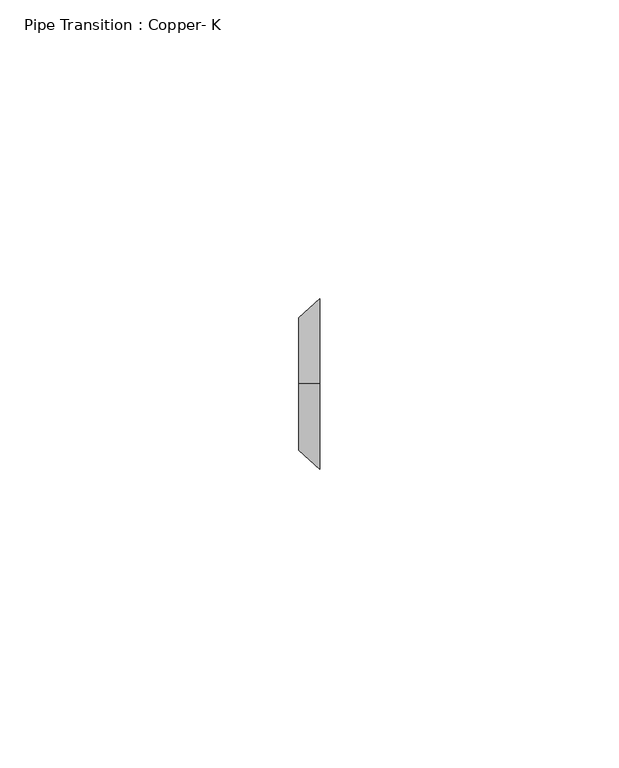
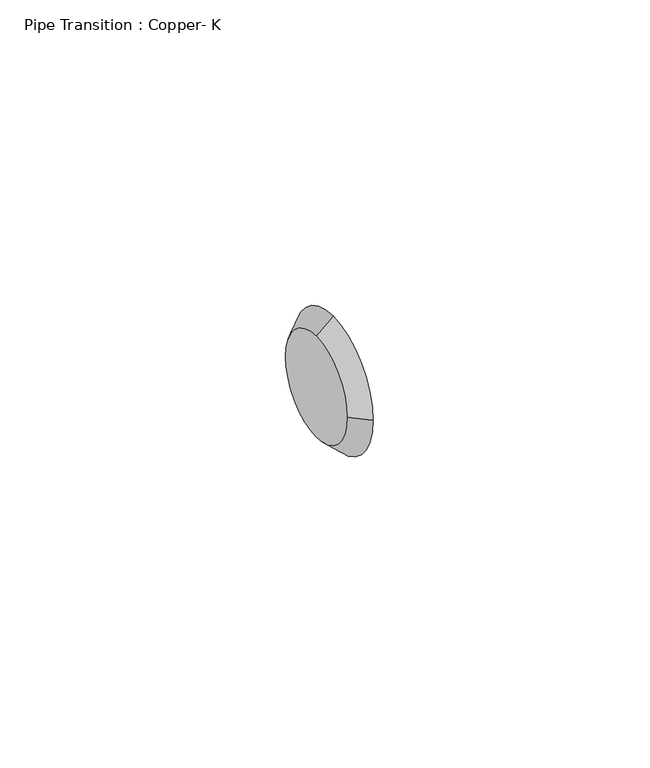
"""IFC4 building model written with IfcOpenShell, lengths in millimetres: pipe fitting geometry, Pipe Transition : Copper- K."""

import ifcopenshell
import ifcopenshell.guid

model = None  # the IFC model being written
_history = None  # IfcOwnerHistory: only IFC2X3 demands one
_inside = {}  # id of a spatial element -> (the spatial element, [elements in it])
_under = {}  # id of a project, library or spatial element -> (it, [spatial elements below it])
_declared = {}  # id of a project -> (the project, [libraries it declares])
_typed = {}  # id of a type object -> (the type object, [elements of that type])
_made_of = {}  # id of a material, layer set ... -> (it, [elements and type objects made of it])


def new_model(schema):
    """Start an empty IFC model of exactly this schema.

    Asked for "IFC4X3", IfcOpenShell would pick the latest addendum, in which some entities
    have other attributes; the version numbers below select the first issue.
    IFC2X3 requires an IfcOwnerHistory on every rooted entity: one is made here for all.
    """
    global model, _history
    if schema == "IFC4X3":
        model = ifcopenshell.file(schema_version=(4, 3, 0, 0))
    else:
        model = ifcopenshell.file(schema=schema)
    _inside.clear()
    _under.clear()
    _declared.clear()
    _typed.clear()
    _made_of.clear()
    _history = None
    if model.schema == "IFC2X3":
        org = make("IfcOrganization", Name="unknown")
        user = make(
            "IfcPersonAndOrganization",
            ThePerson=make("IfcPerson", FamilyName="unknown"),
            TheOrganization=org,
        )
        app = make(
            "IfcApplication",
            ApplicationDeveloper=org,
            Version="unknown",
            ApplicationFullName="unknown",
            ApplicationIdentifier="unknown",
        )
        _history = make(
            "IfcOwnerHistory",
            OwningUser=user,
            OwningApplication=app,
            ChangeAction="ADDED",
            CreationDate=0,
        )
    return model


def make(cls, **values):
    """One entity of the class cls with the attributes given. An attribute that is None is left unset."""
    return model.create_entity(
        cls, **{name: value for name, value in values.items() if value is not None}
    )


def rooted(cls, **values):
    """An entity with a GlobalId (a new one), such as an element, a storey or a relation."""
    return make(cls, GlobalId=ifcopenshell.guid.new(), OwnerHistory=_history, **values)


def si_unit(unit_type, name, prefix=None):
    """IfcSIUnit, for example si_unit("LENGTHUNIT", "METRE", prefix="MILLI")."""
    return make("IfcSIUnit", UnitType=unit_type, Prefix=prefix, Name=name)


def assignment(units):
    """IfcUnitAssignment: the units of a project."""
    return None if units is None else make("IfcUnitAssignment", Units=units)


def point(xyz):
    """IfcCartesianPoint."""
    return None if xyz is None else make("IfcCartesianPoint", Coordinates=xyz)


def direction(xyz):
    """IfcDirection."""
    return None if xyz is None else make("IfcDirection", DirectionRatios=xyz)


def frame(location, z_axis=None, x_axis=None):
    """IfcAxis2Placement3D, a coordinate frame: its origin and axes. An axis left out is left unset."""
    return make(
        "IfcAxis2Placement3D",
        Location=point(location),
        Axis=direction(z_axis),
        RefDirection=direction(x_axis),
    )


def origin():
    """The frame at (0, 0, 0) with its axes left unset."""
    return frame((0.0, 0.0, 0.0))


def place(relative_to, where):
    """IfcLocalPlacement: puts the frame where relative to a parent placement (None: the world)."""
    return make(
        "IfcLocalPlacement", PlacementRelTo=relative_to, RelativePlacement=where
    )


def context(
    kind, dimensions, precision=None, world=None, true_north=None, identifier=None
):
    """IfcGeometricRepresentationContext, for example the 3D "Model" context."""
    return make(
        "IfcGeometricRepresentationContext",
        ContextIdentifier=identifier,
        ContextType=kind,
        CoordinateSpaceDimension=dimensions,
        Precision=precision,
        WorldCoordinateSystem=world,
        TrueNorth=true_north,
    )


def project(units=None, contexts=None):
    """IfcProject with its units and contexts."""
    return rooted(
        "IfcProject",
        Name="project",
        RepresentationContexts=contexts,
        UnitsInContext=assignment(units),
    )


def spatial(cls, under=None, at=None, **own):
    """A site, building, storey or space (cls), placed at a placement, below another one or the project."""
    s = rooted(cls, ObjectPlacement=at, **own)
    if under is not None:
        _under.setdefault(under.id(), (under, []))[1].append(s)
    return s


def polyline(points):
    """IfcPolyline through the points."""
    return make("IfcPolyline", Points=[point(p) for p in points])


def circle_curve(where, radius):
    """IfcCircle in the frame where."""
    return make("IfcCircle", Position=where, Radius=radius)


def shape(context_of_items, identifier, shape_type, items):
    """IfcShapeRepresentation: the items that make up one representation, for example the "Body"."""
    return make(
        "IfcShapeRepresentation",
        ContextOfItems=context_of_items,
        RepresentationIdentifier=identifier,
        RepresentationType=shape_type,
        Items=items,
    )


def source(mapping_origin, context_of_items, identifier, shape_type, items):
    """IfcRepresentationMap: a shape defined once, which mapped items show again and again."""
    return make(
        "IfcRepresentationMap",
        MappingOrigin=mapping_origin,
        MappedRepresentation=shape(context_of_items, identifier, shape_type, items),
    )


def transform(
    local_origin,
    x_axis=None,
    y_axis=None,
    z_axis=None,
    scale=None,
    scale2=None,
    scale3=None,
    uniform=True,
):
    """IfcCartesianTransformationOperator3D, or its non-uniform kind. x_axis, y_axis, z_axis: its Axis1, 2, 3."""
    if uniform:
        return make(
            "IfcCartesianTransformationOperator3D",
            Axis1=direction(x_axis),
            Axis2=direction(y_axis),
            LocalOrigin=point(local_origin),
            Scale=scale,
            Axis3=direction(z_axis),
        )
    return make(
        "IfcCartesianTransformationOperator3DnonUniform",
        Axis1=direction(x_axis),
        Axis2=direction(y_axis),
        LocalOrigin=point(local_origin),
        Scale=scale,
        Axis3=direction(z_axis),
        Scale2=scale2,
        Scale3=scale3,
    )


def mapped(mapping_source, mapping_target):
    """IfcMappedItem: shows the shape of a source again, moved by a transform."""
    return make(
        "IfcMappedItem", MappingSource=mapping_source, MappingTarget=mapping_target
    )


def made_of(thing, what):
    """Note that an element or type object is made of a material, layer set ...; save() writes the relation."""
    if what is not None:
        _made_of.setdefault(what.id(), (what, []))[1].append(thing)
    return thing


def element(
    cls,
    number,
    at=None,
    inside=None,
    cuts=None,
    type_object=None,
    material=None,
    context=None,
    identifier="Body",
    shape_type=None,
    held_by="IfcProductDefinitionShape",
    body=None,
    shapes=None,
    **own,
):
    """One element of the class cls, such as IfcWall. Its Tag is "e" and its number.

    at: its placement. inside: the storey or other place that contains it. cuts: it is an
    opening in that element (IfcRelVoidsElement). A single representation is given by context,
    identifier, shape_type and body (its items); several are given by shapes. held_by: the class
    of the entity that holds the representations. save() writes the other relations.
    """
    e = rooted(cls, Tag="e%d" % number, ObjectPlacement=at, **own)
    if body is not None:
        shapes = [shape(context, identifier, shape_type, body)]
    if shapes is not None:
        e.Representation = make(held_by, Representations=shapes)
    if inside is not None:
        _inside.setdefault(inside.id(), (inside, []))[1].append(e)
    if cuts is not None:
        rooted(
            "IfcRelVoidsElement", RelatingBuildingElement=cuts, RelatedOpeningElement=e
        )
    if type_object is not None:
        _typed.setdefault(type_object.id(), (type_object, []))[1].append(e)
    return made_of(e, material)


def aggregate(whole, parts):
    """IfcRelAggregates: a whole, such as a stair, and the parts it consists of."""
    return rooted("IfcRelAggregates", RelatingObject=whole, RelatedObjects=parts)


def save(model, path):
    """Write the relations noted so far, then the file.

    IfcRelAggregates (storeys below a building ...), IfcRelContainedInSpatialStructure (elements
    in a storey), IfcRelDefinesByType, IfcRelAssociatesMaterial and IfcRelDeclares: one each for
    every whole, place, type object, material and project.
    """
    for whole, parts in _under.values():
        aggregate(whole, parts)
    for where, things in _inside.values():
        rooted(
            "IfcRelContainedInSpatialStructure",
            RelatedElements=things,
            RelatingStructure=where,
        )
    for kind, things in _typed.values():
        rooted("IfcRelDefinesByType", RelatedObjects=things, RelatingType=kind)
    for what, things in _made_of.values():
        rooted("IfcRelAssociatesMaterial", RelatedObjects=things, RelatingMaterial=what)
    for by, libraries in _declared.values():
        rooted("IfcRelDeclares", RelatingContext=by, RelatedDefinitions=libraries)
    model.write(path)


def plane_surface(at):
    """IfcPlane: the flat surface through the origin of the frame at, square to its z axis."""
    return make("IfcPlane", Position=at)


def revolved_surface(curve, axis_point, axis_direction):
    """IfcSurfaceOfRevolution: the curve turned about the line through axis_point along axis_direction."""
    return make(
        "IfcSurfaceOfRevolution",
        SweptCurve=make("IfcArbitraryOpenProfileDef", ProfileType="CURVE", Curve=curve),
        AxisPosition=make("IfcAxis1Placement", Location=point(axis_point), Axis=direction(axis_direction)),
    )


def advanced_brep(points, edges, surfaces, faces):
    """IfcAdvancedBrep: a solid bounded by faces that lie on surfaces and meet in shared edges.

    An edge is (start, end): straight between two places in points (the first is 0);
    or (start, end, curve); or (start, end, curve, False) where it runs against its curve.
    A face is (place in surfaces, loops), or (place, loops, False) where it looks against
    its surface's normal. A loop lists edges by number (the first is 1), with a minus sign
    where the edge is run from its end to its start. The first loop is the outer one.
    """
    corners = [point(p) for p in points]
    vertices = [make("IfcVertexPoint", VertexGeometry=c) for c in corners]
    made = []
    for start, end, *more in edges:
        made.append(
            make(
                "IfcEdgeCurve",
                EdgeStart=vertices[start],
                EdgeEnd=vertices[end],
                EdgeGeometry=more[0] if more else make("IfcPolyline", Points=[corners[start], corners[end]]),
                SameSense=more[1] if len(more) > 1 else True,
            )
        )
    hull = []
    for where, loops, *sense in faces:
        bounds = []
        for j, loop in enumerate(loops):
            ring = [make("IfcOrientedEdge", EdgeElement=made[abs(k) - 1], Orientation=k > 0) for k in loop]
            bounds.append(
                make(
                    "IfcFaceOuterBound" if j == 0 else "IfcFaceBound",
                    Bound=make("IfcEdgeLoop", EdgeList=ring),
                    Orientation=True,
                )
            )
        hull.append(make("IfcAdvancedFace", Bounds=bounds, FaceSurface=surfaces[where], SameSense=sense[0] if sense else True))
    return make("IfcAdvancedBrep", Outer=make("IfcClosedShell", CfsFaces=hull))


def pipe_transition_copper_k_f5214087(model_context):
    return source(origin(), model_context, "Body", "AdvancedBrep", [
        advanced_brep(
        [(3.571875, 0.0, 14.2875), (3.571875, -14.2875, 0.0), (3.571875, 0.0, -14.2875), (3.571875, 14.2875, 0.0), (0.0, 0.0, 11.1125), (0.0, 11.1125, 0.0), (0.0, 0.0, -11.1125), (0.0, -11.1125, 0.0)],
        [
            (0, 1, circle_curve(frame((3.571875, 0.0, 0.0), z_axis=(1.0, 0.0, 0.0), x_axis=(0.0, 0.0, 1.0)), 14.2875)),
            (1, 2, circle_curve(frame((3.571875, 0.0, 0.0), z_axis=(1.0, 0.0, 0.0), x_axis=(0.0, -1.0, 0.0)), 14.2875)),
            (2, 3, circle_curve(frame((3.571875, 0.0, 0.0), z_axis=(1.0, 0.0, 0.0), x_axis=(0.0, 0.0, -1.0)), 14.2875)),
            (3, 0, circle_curve(frame((3.571875, 0.0, 0.0), z_axis=(1.0, 0.0, 0.0), x_axis=(0.0, 1.0, 0.0)), 14.2875)),
            (4, 5, circle_curve(frame((0.0, 0.0, 0.0), z_axis=(-1.0, 0.0, 0.0), x_axis=(0.0, 1.0, 0.0)), 11.1125)),
            (5, 6, circle_curve(frame((0.0, 0.0, 0.0), z_axis=(-1.0, 0.0, 0.0), x_axis=(0.0, 0.0, -1.0)), 11.1125)),
            (6, 7, circle_curve(frame((0.0, 0.0, 0.0), z_axis=(-1.0, 0.0, 0.0), x_axis=(0.0, -1.0, 0.0)), 11.1125)),
            (7, 4, circle_curve(frame((0.0, 0.0, 0.0), z_axis=(-1.0, 0.0, 0.0), x_axis=(0.0, 0.0, 1.0)), 11.1125)),
            (7, 1),
            (0, 4),
            (6, 2),
            (5, 3),
        ],
        [
            plane_surface(frame((3.571875, 0.0, 0.0), z_axis=(1.0, 0.0, 0.0), x_axis=(0.0, -1.0, 0.0))),
            plane_surface(frame((0.0, 0.0, 0.0), z_axis=(-1.0, 0.0, 0.0), x_axis=(0.0, -1.0, 0.0))),
            revolved_surface(polyline([(0.0, -11.1125, 0.0), (3.5718750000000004, -14.2875, 0.0)]), (-12.5015625, 0.0, 0.0), (1.0, 0.0, 0.0)),
            revolved_surface(polyline([(0.0, 0.0, -11.1125), (3.5718750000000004, 0.0, -14.2875)]), (-12.5015625, 0.0, 0.0), (1.0, 0.0, 0.0)),
            revolved_surface(polyline([(0.0, 11.1125, 0.0), (3.5718750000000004, 14.2875, 0.0)]), (-12.5015625, 0.0, 0.0), (1.0, 0.0, 0.0)),
            revolved_surface(polyline([(0.0, 0.0, 11.1125), (3.5718750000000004, 0.0, 14.2875)]), (-12.5015625, 0.0, 0.0), (1.0, 0.0, 0.0)),
        ],
        [
            (0, [[1, 2, 3, 4]]),
            (1, [[5, 6, 7, 8]]),
            (2, [[-8, 9, -1, 10]]),
            (3, [[-7, 11, -2, -9]]),
            (4, [[-6, 12, -3, -11]]),
            (5, [[-5, -10, -4, -12]]),
        ],
    ),
        advanced_brep(
        [(3.571875, 0.0, 14.2875), (3.571875, -14.2875, 0.0), (3.571875, 0.0, -14.2875), (3.571875, 14.2875, 0.0), (0.0, 0.0, 11.1125), (0.0, 11.1125, 0.0), (0.0, 0.0, -11.1125), (0.0, -11.1125, 0.0)],
        [
            (0, 1, circle_curve(frame((3.571875, 0.0, 0.0), z_axis=(1.0, 0.0, -2.3383567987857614e-12), x_axis=(2.3383799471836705e-12, 0.0, 1.0)), 14.2875)),
            (1, 2, circle_curve(frame((3.571875, 0.0, 0.0), z_axis=(1.0, 0.0, -2.2436177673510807e-12), x_axis=(0.0, -1.0, 0.0)), 14.2875)),
            (2, 3, circle_curve(frame((3.571875, 0.0, 0.0), z_axis=(1.0, 0.0, -3.646393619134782e-12), x_axis=(-3.646355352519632e-12, 0.0, -1.0)), 14.2875)),
            (3, 0, circle_curve(frame((3.571875, 0.0, 0.0), z_axis=(1.0, 0.0, 0.0), x_axis=(0.0, 1.0, 0.0)), 14.2875)),
            (4, 5, circle_curve(frame((0.0, 0.0, 0.0), z_axis=(-1.0, 0.0, 0.0), x_axis=(0.0, 1.0, 0.0)), 11.1125)),
            (5, 6, circle_curve(frame((0.0, 0.0, 0.0), z_axis=(-1.0, 0.0, 3.646393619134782e-12), x_axis=(-3.646355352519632e-12, 0.0, -1.0)), 11.1125)),
            (6, 7, circle_curve(frame((0.0, 0.0, 0.0), z_axis=(-1.0, 0.0, 2.2436177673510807e-12), x_axis=(0.0, -1.0, 0.0)), 11.1125)),
            (7, 4, circle_curve(frame((0.0, 0.0, 0.0), z_axis=(-1.0, 0.0, 2.3383567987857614e-12), x_axis=(2.3383799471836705e-12, 0.0, 1.0)), 11.1125)),
            (7, 1),
            (0, 4),
            (6, 2),
            (5, 3),
        ],
        [
            plane_surface(frame((3.571875, 0.0, 0.0), z_axis=(1.0, 0.0, 0.0), x_axis=(0.0, -1.0, 0.0))),
            plane_surface(frame((0.0, 0.0, 0.0), z_axis=(-1.0, 0.0, 0.0), x_axis=(0.0, -1.0, 0.0))),
            revolved_surface(polyline([(-2.5984547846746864e-11, -11.112499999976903, 0.0), (3.5718750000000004, -14.2875, 0.0)]), (-12.5015625, 0.0, 0.0), (1.0, 0.0, -2.3383567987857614e-12)),
            revolved_surface(polyline([(-2.4932944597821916e-11, 0.0, -11.112499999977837), (3.5718750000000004, 0.0, -14.2875)]), (-12.5015625, 0.0, 0.0), (1.0, 0.0, -2.2436177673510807e-12)),
            revolved_surface(polyline([(0.0, 11.1125, 0.0), (3.5718750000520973, 14.287500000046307, 0.0)]), (-12.5015625, 0.0, 0.0), (1.0, 0.0, -3.646393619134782e-12)),
            revolved_surface(polyline([(0.0, 0.0, 11.1125), (3.5718750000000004, 0.0, 14.2875)]), (-12.5015625, 0.0, 0.0), (1.0, 0.0, 0.0)),
        ],
        [
            (0, [[1, 2, 3, 4]]),
            (1, [[5, 6, 7, 8]]),
            (2, [[-8, 9, -1, 10]]),
            (3, [[-7, 11, -2, -9]]),
            (4, [[-6, 12, -3, -11]]),
            (5, [[-5, -10, -4, -12]]),
        ],
    ),
    ])


if __name__ == "__main__":
    model = new_model("IFC4")
    model_context = context("Model", 3, world=origin())
    ifc_project = project(units=[si_unit("LENGTHUNIT", "METRE", prefix="MILLI")], contexts=[model_context])
    site = spatial("IfcSite", under=ifc_project)
    building = spatial("IfcBuilding", under=site)
    placement = place(None, origin())
    pipe_transition_copper_k_shape = pipe_transition_copper_k_f5214087(model_context)
    element("IfcPipeFitting", 1, ObjectType="Pipe Transition : Copper- K", at=placement, inside=building, context=model_context, shape_type="MappedRepresentation", body=[
        mapped(pipe_transition_copper_k_shape, transform((0.0, 0.0, 0.0), x_axis=(1.0, 0.0, 0.0), y_axis=(0.0, 1.0, 0.0), z_axis=(0.0, 0.0, 1.0))),
    ])
    save(model, "model.ifc")
